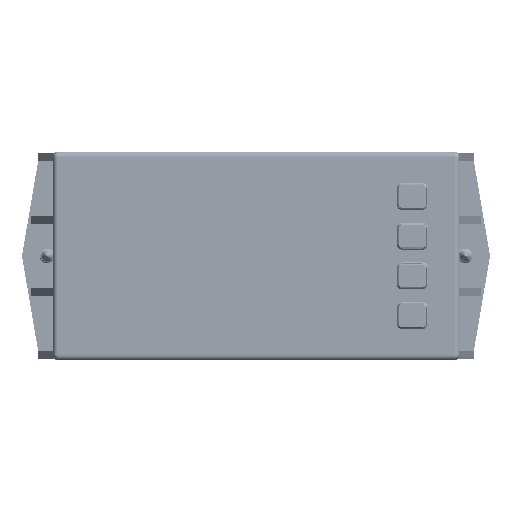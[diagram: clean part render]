
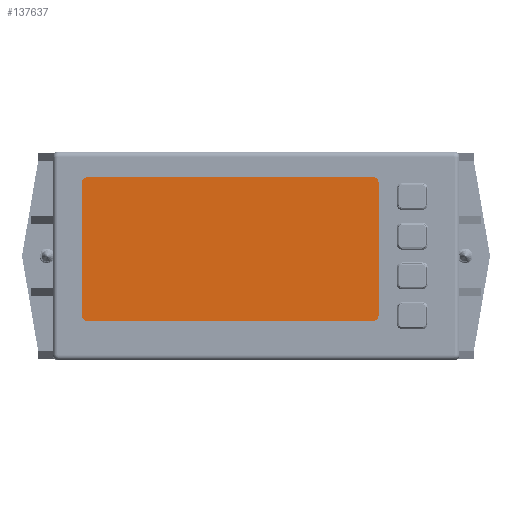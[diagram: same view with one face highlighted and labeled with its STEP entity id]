
A CAD part, front view. The second image highlights one B-rep face of the part: STEP entity #137637.
In plain terms, the highlighted planar face has unit normal (0, -1, 0) as drawn and (0, 0, 1) by its records, which use the part's own axes.
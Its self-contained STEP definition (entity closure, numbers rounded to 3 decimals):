
#4994=CIRCLE('',#145333,1.143);
#4995=CIRCLE('',#145335,1.143);
#4996=CIRCLE('',#145337,1.143);
#4997=CIRCLE('',#145339,1.143);
#32741=ORIENTED_EDGE('',*,*,#50048,.F.);
#32742=ORIENTED_EDGE('',*,*,#50034,.F.);
#32743=ORIENTED_EDGE('',*,*,#50047,.F.);
#32744=ORIENTED_EDGE('',*,*,#50043,.F.);
#32745=ORIENTED_EDGE('',*,*,#50046,.F.);
#32746=ORIENTED_EDGE('',*,*,#50040,.F.);
#32747=ORIENTED_EDGE('',*,*,#50049,.F.);
#32748=ORIENTED_EDGE('',*,*,#50037,.F.);
#50034=EDGE_CURVE('',#60867,#60868,#72693,.T.);
#50037=EDGE_CURVE('',#60869,#60870,#72696,.T.);
#50040=EDGE_CURVE('',#60871,#60872,#72699,.T.);
#50043=EDGE_CURVE('',#60873,#60874,#72702,.T.);
#50046=EDGE_CURVE('',#60872,#60873,#4994,.T.);
#50047=EDGE_CURVE('',#60874,#60867,#4995,.T.);
#50048=EDGE_CURVE('',#60868,#60869,#4996,.T.);
#50049=EDGE_CURVE('',#60870,#60871,#4997,.T.);
#60867=VERTEX_POINT('',#223461);
#60868=VERTEX_POINT('',#223462);
#60869=VERTEX_POINT('',#223467);
#60870=VERTEX_POINT('',#223468);
#60871=VERTEX_POINT('',#223473);
#60872=VERTEX_POINT('',#223474);
#60873=VERTEX_POINT('',#223479);
#60874=VERTEX_POINT('',#223480);
#72693=LINE('',#223460,#85099);
#72696=LINE('',#223466,#85102);
#72699=LINE('',#223472,#85105);
#72702=LINE('',#223478,#85108);
#85099=VECTOR('',#170322,1000.);
#85102=VECTOR('',#170327,1000.);
#85105=VECTOR('',#170332,1000.);
#85108=VECTOR('',#170337,1000.);
#92858=EDGE_LOOP('',(#32741,#32742,#32743,#32744,#32745,#32746,#32747,#32748));
#99641=FACE_BOUND('',#92858,.T.);
#104170=PLANE('',#145410);
#137637=ADVANCED_FACE('',(#99641),#104170,.F.);
#145333=AXIS2_PLACEMENT_3D('',#223484,#170342,#170343);
#145335=AXIS2_PLACEMENT_3D('',#223486,#170346,#170347);
#145337=AXIS2_PLACEMENT_3D('',#223488,#170350,#170351);
#145339=AXIS2_PLACEMENT_3D('',#223490,#170354,#170355);
#145410=AXIS2_PLACEMENT_3D('',#223685,#170568,#170569);
#170322=DIRECTION('',(-1.,0.,0.));
#170327=DIRECTION('',(0.,1.,0.));
#170332=DIRECTION('',(1.,0.,0.));
#170337=DIRECTION('',(0.,-1.,0.));
#170342=DIRECTION('',(0.,0.,-1.));
#170343=DIRECTION('',(-1.,0.,0.));
#170346=DIRECTION('',(0.,0.,-1.));
#170347=DIRECTION('',(-1.,0.,0.));
#170350=DIRECTION('',(0.,0.,-1.));
#170351=DIRECTION('',(1.,0.,0.));
#170354=DIRECTION('',(0.,0.,-1.));
#170355=DIRECTION('',(1.,0.,0.));
#170568=DIRECTION('',(0.,0.,-1.));
#170569=DIRECTION('',(-1.,0.,0.));
#223460=CARTESIAN_POINT('',(27.94,-15.367,0.737));
#223461=CARTESIAN_POINT('',(27.94,-15.367,0.737));
#223462=CARTESIAN_POINT('',(-40.132,-15.367,0.737));
#223466=CARTESIAN_POINT('',(-41.275,-14.224,0.737));
#223467=CARTESIAN_POINT('',(-41.275,-14.224,0.737));
#223468=CARTESIAN_POINT('',(-41.275,17.526,0.737));
#223472=CARTESIAN_POINT('',(-40.132,18.669,0.737));
#223473=CARTESIAN_POINT('',(-40.132,18.669,0.737));
#223474=CARTESIAN_POINT('',(27.94,18.669,0.737));
#223478=CARTESIAN_POINT('',(29.083,17.526,0.737));
#223479=CARTESIAN_POINT('',(29.083,17.526,0.737));
#223480=CARTESIAN_POINT('',(29.083,-14.224,0.737));
#223484=CARTESIAN_POINT('',(27.94,17.526,0.737));
#223486=CARTESIAN_POINT('',(27.94,-14.224,0.737));
#223488=CARTESIAN_POINT('',(-40.132,-14.224,0.737));
#223490=CARTESIAN_POINT('',(-40.132,17.526,0.737));
#223685=CARTESIAN_POINT('',(-40.132,-14.224,0.737));
